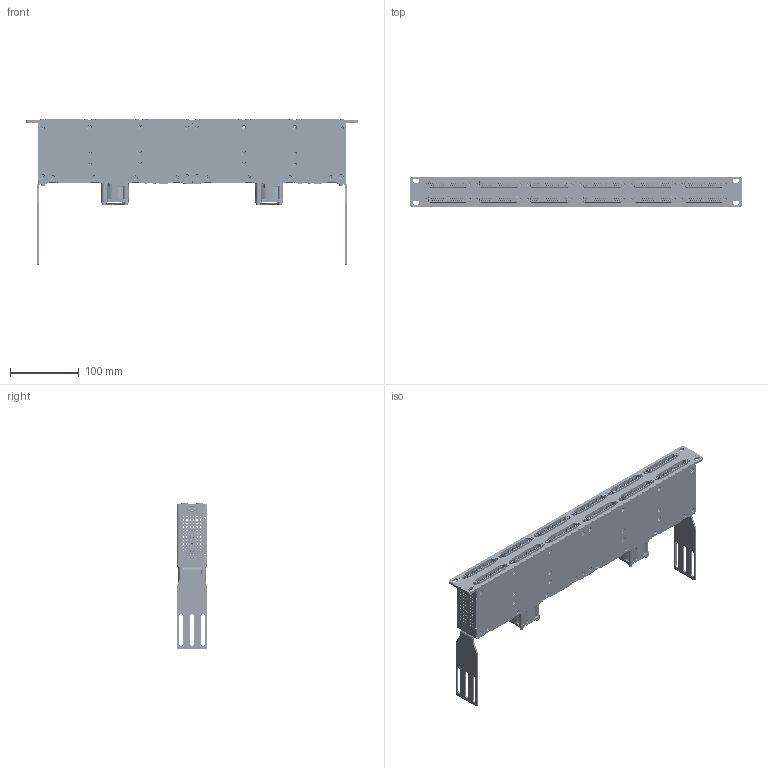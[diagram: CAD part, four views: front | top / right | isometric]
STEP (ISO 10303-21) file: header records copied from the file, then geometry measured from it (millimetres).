
FILE_DESCRIPTION((''),'2;1');
FILE_NAME('ASSY_RACKMOUNT_BOTH_SIDE_ASM','2022-06-23T10:41:43',('kleong'),(''),'CREO PARAMETRIC BY PTC INC, 2021063','CREO PARAMETRIC BY PTC INC, 2021063','');
FILE_SCHEMA(('AUTOMOTIVE_DESIGN { 1 0 10303 214 1 1 1 1 }'));
Products named in the file (87): PCB_TS_BACKPLANE_RACKMOUNT_; FS5_30_04_0_TH__SOCKET; C_304__30; FS5_30_04_0_L_DV_TH_K__TR_AF5_ASM; FS5_15_04_0_TH__SOCKET; C_304__15; FS5_15_04_0_L_DV_TH_K__TR_AF15_ASM; FS5_15_04_0_L_DV_TH_K__TR_AF16_ASM; FS5_15_04_0_L_DV_TH_K__TR_AF17_ASM; FS5_15_04_0_L_DV_TH_K__TR_AF18_ASM; FS5_15_04_0_L_DV_TH_K__TR_AF19_ASM; CONN_USB_A_VT_SAMTEC_RETENTION; CONN_USB_VERTICAL_AMP_5788336-1; 1722991204; CONN_MOLEX_SMT_53398-0371; CCA_TS_BACKPLANE_RACKMOUNT_AF1_ASM; PCB_TS_GPIO_MODULE; KYCON_K22X-C37P-N; FT5_30_01___TEMINAL; T_1M84_30__01; FT5_30_01_L_RA_K__TR_AF1_ASM; SO_187HEX_MF_440X01875_SS_0; CCA_TS_GPIO_MODULE_AF1_ASM; PCB_TS_IO_MODULE; FT5_15_01___TEMINAL; T_1M84_15__01; FT5_15_01_L_RA_K__TR_AF15_ASM; CCA_TS_IO_MODULE_AF15_ASM; FT5_15_01_L_RA_K__TR_AF16_ASM; CCA_TS_IO_MODULE_AF16_ASM; FT5_15_01_L_RA_K__TR_AF17_ASM; CCA_TS_IO_MODULE_AF17_ASM; FT5_15_01_L_RA_K__TR_AF18_ASM; CCA_TS_IO_MODULE_AF18_ASM; FT5_15_01_L_RA_K__TR_AF19_ASM; CCA_TS_IO_MODULE_AF19_ASM; TS_FRONT_PANEL_RACKMOUNT_MCHINE; S-M3-2_ZI; ASSY_TS_FRONT_PANEL_RACKMOUNT_ASM; TS_TOP_PANEL_RACKMOUNT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
Assembly tree (330 placements, depth 5):
  ASSY_RACKMOUNT_BOTH_SIDE_ASM
    ASSY_TS_RACKMOUNT_AF0_ASM
      CCA_TS_BACKPLANE_RACKMOUNT_AF1_ASM
        PCB_TS_BACKPLANE_RACKMOUNT_
        FS5_30_04_0_L_DV_TH_K__TR_AF5_ASM
          FS5_30_04_0_TH__SOCKET
          C_304__30
        FS5_15_04_0_L_DV_TH_K__TR_AF15_ASM
          FS5_15_04_0_TH__SOCKET
          C_304__15
        FS5_15_04_0_L_DV_TH_K__TR_AF16_ASM
          FS5_15_04_0_TH__SOCKET
          C_304__15
        FS5_15_04_0_L_DV_TH_K__TR_AF17_ASM
          FS5_15_04_0_TH__SOCKET
          C_304__15
        FS5_15_04_0_L_DV_TH_K__TR_AF18_ASM
          FS5_15_04_0_TH__SOCKET
          C_304__15
        FS5_15_04_0_L_DV_TH_K__TR_AF19_ASM
          FS5_15_04_0_TH__SOCKET
          C_304__15
        CONN_USB_A_VT_SAMTEC_RETENTION  x2
        CONN_USB_VERTICAL_AMP_5788336-1
        1722991204  x2
        CONN_MOLEX_SMT_53398-0371
      CCA_TS_GPIO_MODULE_AF1_ASM
        PCB_TS_GPIO_MODULE
        KYCON_K22X-C37P-N
        FT5_30_01_L_RA_K__TR_AF1_ASM
          FT5_30_01___TEMINAL
          T_1M84_30__01
        SO_187HEX_MF_440X01875_SS_0  x2
      CCA_TS_IO_MODULE_AF15_ASM
        PCB_TS_IO_MODULE
        KYCON_K22X-C37P-N
        SO_187HEX_MF_440X01875_SS_0  x2
        FT5_15_01_L_RA_K__TR_AF15_ASM
          FT5_15_01___TEMINAL
          T_1M84_15__01
      CCA_TS_IO_MODULE_AF16_ASM
        PCB_TS_IO_MODULE
        KYCON_K22X-C37P-N
        SO_187HEX_MF_440X01875_SS_0  x2
        FT5_15_01_L_RA_K__TR_AF16_ASM
          FT5_15_01___TEMINAL
          T_1M84_15__01
      CCA_TS_IO_MODULE_AF17_ASM
        PCB_TS_IO_MODULE
        KYCON_K22X-C37P-N
        SO_187HEX_MF_440X01875_SS_0  x2
        FT5_15_01_L_RA_K__TR_AF17_ASM
          FT5_15_01___TEMINAL
          T_1M84_15__01
      CCA_TS_IO_MODULE_AF18_ASM
        PCB_TS_IO_MODULE
        KYCON_K22X-C37P-N
        SO_187HEX_MF_440X01875_SS_0  x2
        FT5_15_01_L_RA_K__TR_AF18_ASM
          FT5_15_01___TEMINAL
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Bounding box: 482.6 x 43.66 x 213.17 mm (x, y, z)
Volume: 512377.5 mm3; surface area: 690622.2 mm2
Topology: 327 solids, 337 shells, 56761 faces, 165092 edges, 107584 vertices
Faces by surface type: plane 38409, cylinder 13014, cone 2378, sphere 1132, extrusion 872, bspline 574, torus 382
Entity records: 536473 total; most frequent: CARTESIAN_POINT 99254, ORIENTED_EDGE 69851, DIRECTION 64980, EDGE_CURVE 35241, PRESENTATION_STYLE_ASSIGNMENT 32745, STYLED_ITEM 32116, CURVE_STYLE 30691, VECTOR 27346
